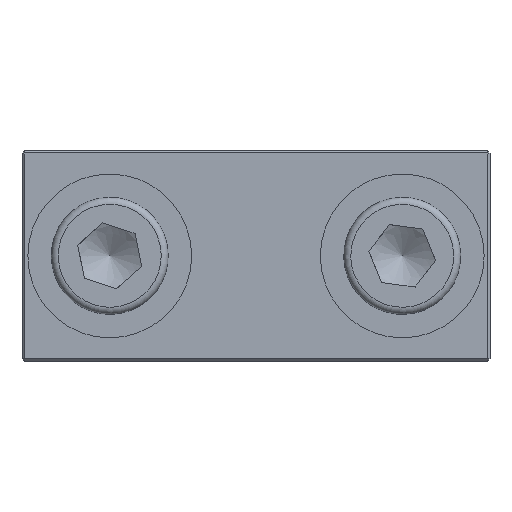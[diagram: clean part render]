
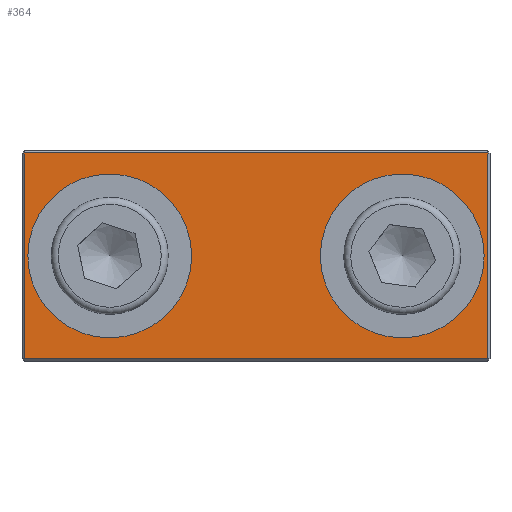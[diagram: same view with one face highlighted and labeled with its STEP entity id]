
A CAD part, top view. The second image highlights one B-rep face of the part: STEP entity #364.
In plain terms, the highlighted planar face has unit normal (0, 0, 1).
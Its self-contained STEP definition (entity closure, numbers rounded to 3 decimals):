
#299=CARTESIAN_POINT('',(15.9,0.,2.0));
#300=VERTEX_POINT('',#299);
#301=CARTESIAN_POINT('',(12.5,0.0,2.0));
#302=DIRECTION('',(0.0,0.0,1.0));
#303=DIRECTION('',(-1.0,0.0,0.0));
#304=AXIS2_PLACEMENT_3D('',#301,#302,#303);
#305=CIRCLE('',#304,3.4);
#306=EDGE_CURVE('',#300,#300,#305,.T.);
#311=CARTESIAN_POINT('',(0.,0.,2.0));
#312=DIRECTION('',(0.0,0.0,1.0));
#313=DIRECTION('',(1.0,0.0,0.0));
#314=AXIS2_PLACEMENT_3D('',#311,#312,#313);
#315=PLANE('',#314);
#316=CARTESIAN_POINT('',(-19.8,-8.8,2.0));
#317=VERTEX_POINT('',#316);
#318=CARTESIAN_POINT('',(-19.8,8.8,2.0));
#319=VERTEX_POINT('',#318);
#320=CARTESIAN_POINT('',(-19.8,-8.8,2.0));
#321=DIRECTION('',(0.0,1.0,0.0));
#322=VECTOR('',#321,17.6);
#323=LINE('',#320,#322);
#324=EDGE_CURVE('',#317,#319,#323,.T.);
#325=ORIENTED_EDGE('',*,*,#324,.F.);
#326=CARTESIAN_POINT('',(19.8,-8.8,2.0));
#327=VERTEX_POINT('',#326);
#328=CARTESIAN_POINT('',(19.8,-8.8,2.0));
#329=DIRECTION('',(-1.0,0.0,0.0));
#330=VECTOR('',#329,39.6);
#331=LINE('',#328,#330);
#332=EDGE_CURVE('',#327,#317,#331,.T.);
#333=ORIENTED_EDGE('',*,*,#332,.F.);
#334=CARTESIAN_POINT('',(19.8,8.8,2.0));
#335=VERTEX_POINT('',#334);
#336=CARTESIAN_POINT('',(19.8,8.8,2.0));
#337=DIRECTION('',(0.0,-1.0,0.0));
#338=VECTOR('',#337,17.6);
#339=LINE('',#336,#338);
#340=EDGE_CURVE('',#335,#327,#339,.T.);
#341=ORIENTED_EDGE('',*,*,#340,.F.);
#342=CARTESIAN_POINT('',(-19.8,8.8,2.0));
#343=DIRECTION('',(1.0,0.0,0.0));
#344=VECTOR('',#343,39.6);
#345=LINE('',#342,#344);
#346=EDGE_CURVE('',#319,#335,#345,.T.);
#347=ORIENTED_EDGE('',*,*,#346,.F.);
#348=EDGE_LOOP('',(#325,#333,#341,#347));
#349=FACE_OUTER_BOUND('',#348,.T.);
#350=CARTESIAN_POINT('',(-9.1,0.,2.0));
#351=VERTEX_POINT('',#350);
#352=CARTESIAN_POINT('',(-12.5,0.0,2.0));
#353=DIRECTION('',(0.0,0.0,1.0));
#354=DIRECTION('',(-1.0,0.0,0.0));
#355=AXIS2_PLACEMENT_3D('',#352,#353,#354);
#356=CIRCLE('',#355,3.4);
#357=EDGE_CURVE('',#351,#351,#356,.T.);
#358=ORIENTED_EDGE('',*,*,#357,.F.);
#359=EDGE_LOOP('',(#358));
#360=FACE_BOUND('',#359,.T.);
#361=ORIENTED_EDGE('',*,*,#306,.F.);
#362=EDGE_LOOP('',(#361));
#363=FACE_BOUND('',#362,.T.);
#364=ADVANCED_FACE('',(#349,#360,#363),#315,.T.);
